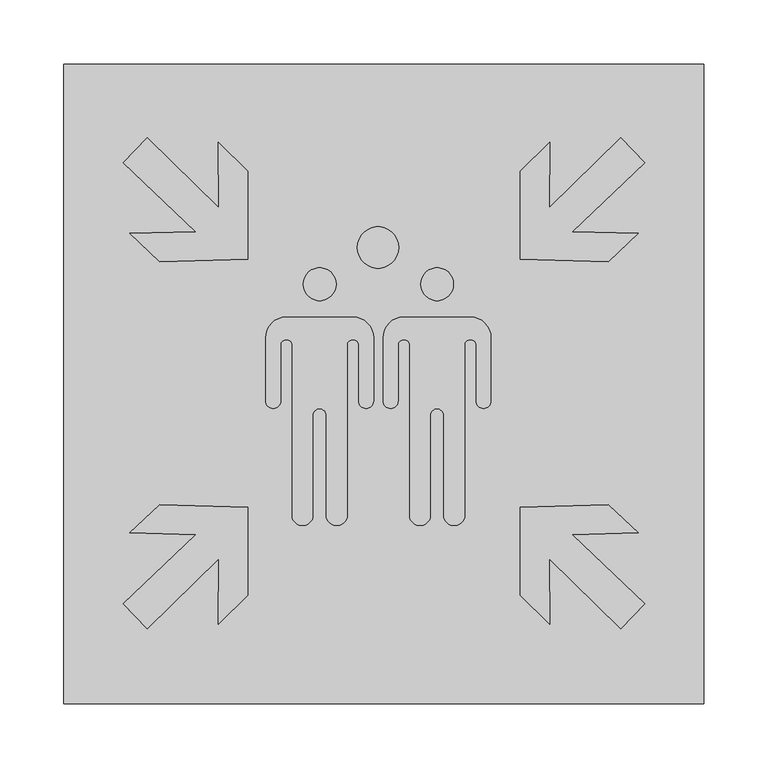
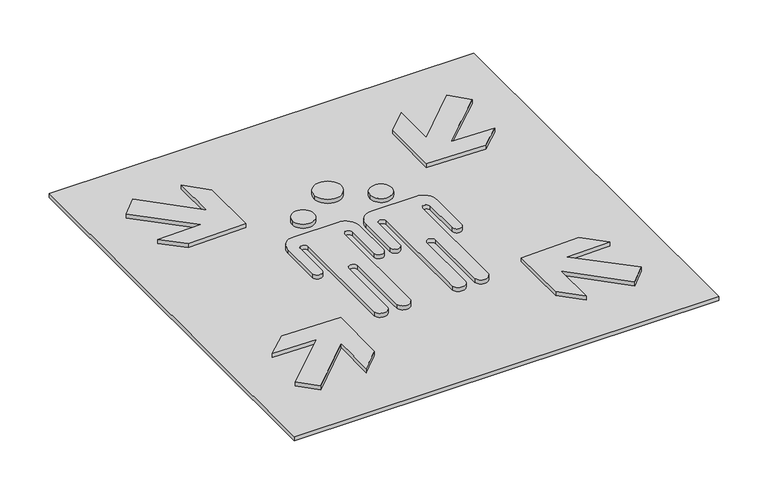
"""IFC4 building model written with IfcOpenShell, lengths in millimetres: proxy geometry, Återsamlingsplats : Återsamlingsplats."""

from ifc_helpers import new_model, si_unit, point, frame, frame_2d, origin, origin_with_axes, place, context, project, spatial, polyline, circle_curve, trimmed, segment, composite_curve, outline, extrude, source, transform, mapped, element, save


def specialty_equipment_eb012859(model_context):
    return source(origin(), model_context, "Body", "SweptSolid", [
        extrude(outline(polyline([(203.8235621, 172.8998954), (147.1325787, 119.0124087), (198.4640221, 117.6518831), (175.0713136, 95.6053995), (106.2580116, 97.5604807), (106.620328, 166.4005969), (129.4417285, 189.0379539), (129.0736414, 137.6898027), (184.8388378, 192.5347814), (203.8235621, 172.8998954)])), frame((0.0, 0.0, 5.0), z_axis=(0.0, 0.0, 1.0), x_axis=(1.0, 0.0, 0.0)), (0.0, 0.0, 1.0), 5.0),
        extrude(outline(polyline([(184.8388378, -191.2635294), (129.0736414, -136.4185507), (129.4417285, -187.7667019), (106.620328, -165.1293449), (106.2580116, -96.2892287), (175.0713136, -94.3341475), (198.4640221, -116.3806311), (147.1325787, -117.7411567), (203.8235621, -171.6286434), (184.8388378, -191.2635294)])), frame((0.0, 0.0, 5.0), z_axis=(0.0, 0.0, 1.0), x_axis=(1.0, 0.0, 0.0)), (0.0, 0.0, 1.0), 5.0),
        extrude(outline(polyline([(-129.0736414, -136.4185507), (-184.8388378, -191.2635294), (-203.8235621, -171.6286434), (-147.1325787, -117.7411567), (-198.4640221, -116.3806311), (-175.0713136, -94.3341475), (-106.2580116, -96.2892287), (-106.620328, -165.1293449), (-129.4417285, -187.7667019), (-129.0736414, -136.4185507)])), frame((0.0, 0.0, 5.0), z_axis=(0.0, 0.0, 1.0), x_axis=(1.0, 0.0, 0.0)), (0.0, 0.0, 1.0), 5.0),
        extrude(outline(polyline([(-147.1325787, 119.0124087), (-203.8235621, 172.8998954), (-184.8388378, 192.5347814), (-129.0736414, 137.6898027), (-129.4417285, 189.0379539), (-106.620328, 166.4005969), (-106.2580116, 97.5604807), (-175.0713136, 95.6053995), (-198.4640221, 117.6518831), (-147.1325787, 119.0124087)])), frame((0.0, 0.0, 5.0), z_axis=(0.0, 0.0, 1.0), x_axis=(1.0, 0.0, 0.0)), (0.0, 0.0, 1.0), 5.0),
        extrude(outline(composite_curve([segment(trimmed(circle_curve(frame_2d((-4.6499478, 106.6706394)), 16.1452207), [point((11.4952729, 106.6706394))], [point((-20.7951684, 106.6706394))], False, "CARTESIAN"), True, "CONTINUOUS"), segment(trimmed(circle_curve(frame_2d((-4.6499478, 106.6706394)), 16.1452207), [point((-20.7951684, 106.6706394))], [point((11.4952729, 106.6706394))], False, "CARTESIAN"), True, "CONTINUOUS")], self_intersect=False)), frame((0.0, 0.0, 5.0), z_axis=(0.0, 0.0, 1.0), x_axis=(1.0, 0.0, 0.0)), (0.0, 0.0, 1.0), 5.0),
        extrude(outline(composite_curve([segment(trimmed(circle_curve(frame_2d((41.4644433, 77.9800071)), 12.8216844), [point((28.642759, 77.9800071))], [point((54.2861277, 77.9800071))], False, "CARTESIAN"), True, "CONTINUOUS"), segment(trimmed(circle_curve(frame_2d((41.4644433, 77.9800071)), 12.8216844), [point((54.2861277, 77.9800071))], [point((28.642759, 77.9800071))], False, "CARTESIAN"), True, "CONTINUOUS")], self_intersect=False)), frame((0.0, 0.0, 5.0), z_axis=(0.0, 0.0, 1.0), x_axis=(1.0, 0.0, 0.0)), (0.0, 0.0, 1.0), 5.0),
        extrude(outline(composite_curve([segment(trimmed(circle_curve(frame_2d((-50.2849486, 77.9800071)), 12.8216844), [point((-37.4632642, 77.9800071))], [point((-63.1066329, 77.9800071))], False, "CARTESIAN"), True, "CONTINUOUS"), segment(trimmed(circle_curve(frame_2d((-50.2849486, 77.9800071)), 12.8216844), [point((-63.1066329, 77.9800071))], [point((-37.4632642, 77.9800071))], False, "CARTESIAN"), True, "CONTINUOUS")], self_intersect=False)), frame((0.0, 0.0, 5.0), z_axis=(0.0, 0.0, 1.0), x_axis=(1.0, 0.0, 0.0)), (0.0, 0.0, 1.0), 5.0),
        extrude(outline(composite_curve([segment(polyline([(15.5356532, 52.3366384), (67.3932334, 52.3366384)]), True, "CONTINUOUS"), segment(trimmed(circle_curve(frame_2d((67.3932334, 36.1661364)), 16.1705019), [point((67.3932334, 52.3366384))], [point((83.5637354, 36.1661364))], False, "CARTESIAN"), True, "CONTINUOUS"), segment(polyline([(83.5637354, 36.1661364), (83.5637354, -13.2798251)]), True, "CONTINUOUS"), segment(trimmed(circle_curve(frame_2d((77.7468116, -13.3481056)), 5.8173245), [point((83.5637354, -13.2798251))], [point((71.9298879, -13.2798251))], False, "CARTESIAN"), True, "CONTINUOUS"), segment(polyline([(71.9298879, -13.2798251), (71.9298879, 30.8706606)]), True, "CONTINUOUS"), segment(trimmed(circle_curve(frame_2d((67.4269047, 30.1408913)), 4.5617344), [point((71.9298879, 30.8706606))], [point((62.9239215, 30.8706606))], True, "CARTESIAN"), True, "CONTINUOUS"), segment(polyline([(62.9239215, 30.8706606), (62.9239215, -104.3455624)]), True, "CONTINUOUS"), segment(trimmed(circle_curve(frame_2d((54.8260052, -102.2148587)), 8.3735385), [point((62.9239215, -104.3455624))], [point((46.7280889, -104.3455624))], False, "CARTESIAN"), True, "CONTINUOUS"), segment(polyline([(46.7280889, -104.3455624), (46.7280889, -23.8117253)]), True, "CONTINUOUS"), segment(trimmed(circle_curve(frame_2d((41.4644433, -24.7565022)), 5.3477629), [point((46.7280889, -23.8117253))], [point((36.2007977, -23.8117253))], True, "CARTESIAN"), True, "CONTINUOUS"), segment(polyline([(36.2007977, -23.8117253), (36.2007977, -104.3455624)]), True, "CONTINUOUS"), segment(trimmed(circle_curve(frame_2d((28.1028814, -102.2148587)), 8.3735385), [point((36.2007977, -104.3455624))], [point((20.0049651, -104.3455624))], False, "CARTESIAN"), True, "CONTINUOUS"), segment(polyline([(20.0049651, -104.3455624), (20.0049651, 30.8706606)]), True, "CONTINUOUS"), segment(trimmed(circle_curve(frame_2d((15.5019819, 30.1408913)), 4.5617344), [point((20.0049651, 30.8706606))], [point((10.9989987, 30.8706606))], True, "CARTESIAN"), True, "CONTINUOUS"), segment(polyline([(10.9989987, 30.8706606), (10.9989987, -13.2798251)]), True, "CONTINUOUS"), segment(trimmed(circle_curve(frame_2d((5.182075, -13.3481056)), 5.8173245), [point((10.9989987, -13.2798251))], [point((-0.6348487, -13.2798251))], False, "CARTESIAN"), True, "CONTINUOUS"), segment(polyline([(-0.6348487, -13.2798251), (-0.6348487, 36.1661364)]), True, "CONTINUOUS"), segment(trimmed(circle_curve(frame_2d((15.5356532, 36.1661364)), 16.1705019), [point((-0.6348487, 36.1661364))], [point((15.5356532, 52.3366384))], False, "CARTESIAN"), True, "CONTINUOUS")], self_intersect=False)), frame((0.0, 0.0, 5.0), z_axis=(0.0, 0.0, 1.0), x_axis=(1.0, 0.0, 0.0)), (0.0, 0.0, 1.0), 5.0),
        extrude(outline(composite_curve([segment(polyline([(-76.2137387, 52.3366384), (-24.3561584, 52.3366384)]), True, "CONTINUOUS"), segment(trimmed(circle_curve(frame_2d((-24.3561584, 36.1661364)), 16.1705019), [point((-24.3561584, 52.3366384))], [point((-8.1856565, 36.1661364))], False, "CARTESIAN"), True, "CONTINUOUS"), segment(polyline([(-8.1856565, 36.1661364), (-8.1856565, -13.2798251)]), True, "CONTINUOUS"), segment(trimmed(circle_curve(frame_2d((-14.0025802, -13.3481056)), 5.8173245), [point((-8.1856565, -13.2798251))], [point((-19.819504, -13.2798251))], False, "CARTESIAN"), True, "CONTINUOUS"), segment(polyline([(-19.819504, -13.2798251), (-19.819504, 30.8706606)]), True, "CONTINUOUS"), segment(trimmed(circle_curve(frame_2d((-24.3224871, 30.1408913)), 4.5617344), [point((-19.819504, 30.8706606))], [point((-28.8254703, 30.8706606))], True, "CARTESIAN"), True, "CONTINUOUS"), segment(polyline([(-28.8254703, 30.8706606), (-28.8254703, -104.3455624)]), True, "CONTINUOUS"), segment(trimmed(circle_curve(frame_2d((-36.9233866, -102.2148587)), 8.3735385), [point((-28.8254703, -104.3455624))], [point((-45.0213029, -104.3455624))], False, "CARTESIAN"), True, "CONTINUOUS"), segment(polyline([(-45.0213029, -104.3455624), (-45.0213029, -23.8117253)]), True, "CONTINUOUS"), segment(trimmed(circle_curve(frame_2d((-50.2849486, -24.7565022)), 5.3477629), [point((-45.0213029, -23.8117253))], [point((-55.5485942, -23.8117253))], True, "CARTESIAN"), True, "CONTINUOUS"), segment(polyline([(-55.5485942, -23.8117253), (-55.5485942, -104.3455624)]), True, "CONTINUOUS"), segment(trimmed(circle_curve(frame_2d((-63.6465105, -102.2148587)), 8.3735385), [point((-55.5485942, -104.3455624))], [point((-71.7444268, -104.3455624))], False, "CARTESIAN"), True, "CONTINUOUS"), segment(polyline([(-71.7444268, -104.3455624), (-71.7444268, 30.8706606)]), True, "CONTINUOUS"), segment(trimmed(circle_curve(frame_2d((-76.24741, 30.1408913)), 4.5617344), [point((-71.7444268, 30.8706606))], [point((-80.7503931, 30.8706606))], True, "CARTESIAN"), True, "CONTINUOUS"), segment(polyline([(-80.7503931, 30.8706606), (-80.7503931, -13.2798251)]), True, "CONTINUOUS"), segment(trimmed(circle_curve(frame_2d((-86.5673169, -13.3481056)), 5.8173245), [point((-80.7503931, -13.2798251))], [point((-92.3842406, -13.2798251))], False, "CARTESIAN"), True, "CONTINUOUS"), segment(polyline([(-92.3842406, -13.2798251), (-92.3842406, 36.1661364)]), True, "CONTINUOUS"), segment(trimmed(circle_curve(frame_2d((-76.2137387, 36.1661364)), 16.1705019), [point((-92.3842406, 36.1661364))], [point((-76.2137387, 52.3366384))], False, "CARTESIAN"), True, "CONTINUOUS")], self_intersect=False)), frame((0.0, 0.0, 5.0), z_axis=(0.0, 0.0, 1.0), x_axis=(1.0, 0.0, 0.0)), (0.0, 0.0, 1.0), 5.0),
        extrude(outline(polyline([(-250.0, 250.0), (250.0, 250.0), (250.0, -250.0), (-250.0, -250.0), (-250.0, 250.0)])), origin_with_axes(), (0.0, 0.0, 1.0), 5.0),
    ])


if __name__ == "__main__":
    model = new_model("IFC4")
    model_context = context("Model", 3, world=origin())
    ifc_project = project(units=[si_unit("LENGTHUNIT", "METRE", prefix="MILLI")], contexts=[model_context])
    site = spatial("IfcSite", under=ifc_project)
    building = spatial("IfcBuilding", under=site)
    placement = place(None, origin())
    specialty_equipment_shape = specialty_equipment_eb012859(model_context)
    element("IfcBuildingElementProxy", 1, Name="Återsamlingsplats : Återsamlingsplats", ObjectType="Återsamlingsplats : Återsamlingsplats", at=placement, inside=building, context=model_context, shape_type="MappedRepresentation", body=[
        mapped(specialty_equipment_shape, transform((0.0, 0.0, 0.0), x_axis=(1.0, 0.0, 0.0), y_axis=(0.0, 1.0, 0.0), z_axis=(0.0, 0.0, 1.0))),
    ])
    save(model, "model.ifc")
